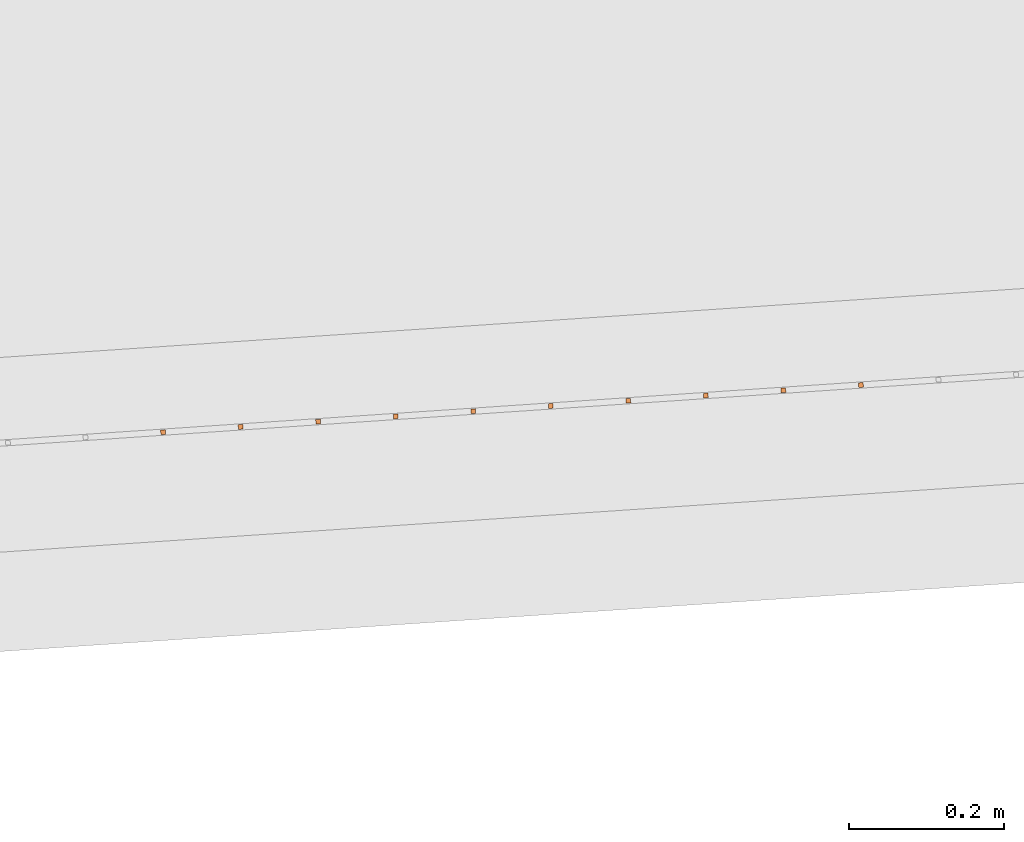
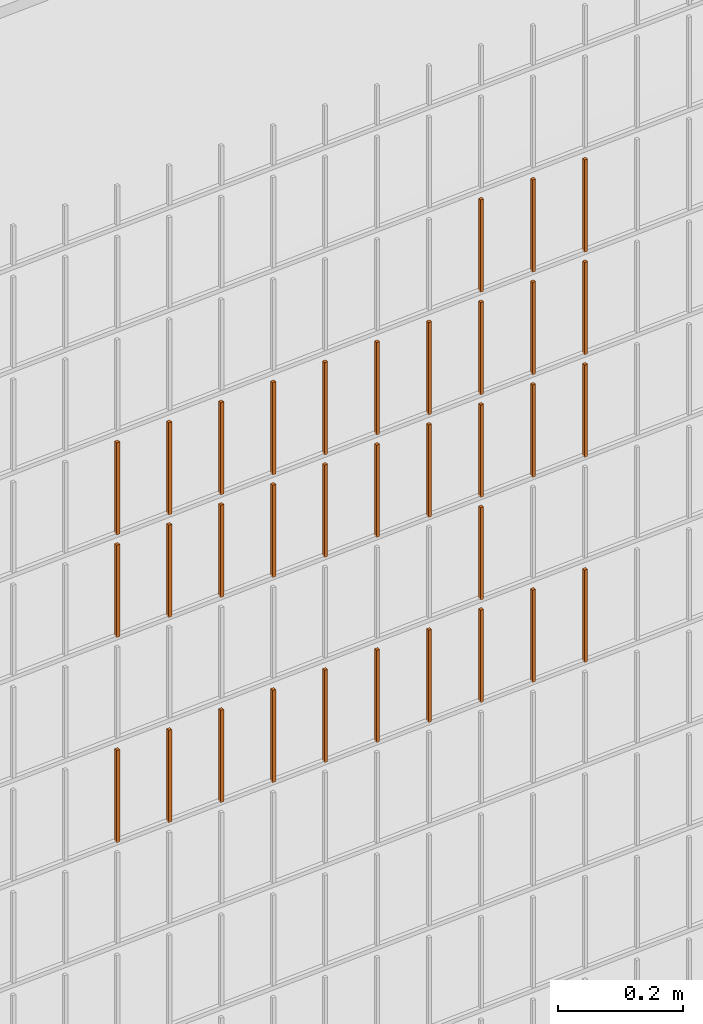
# One storey, part 214 of 1809: 34 proxies, 1 element without a shape of its own.
"""IFC2X3 building model written with IfcOpenShell, lengths in millimetres."""

from ifc_helpers import new_model, entity, si_unit, converted_unit, derived_unit, money_unit, direction, frame, origin_with_axes, place, context, subcontext, project, spatial, faceted_brep, source, transform, mapped, material, type_object, element, aggregate, save


model = new_model("IFC2X3")

# Units and contexts
model_context = context("Model", 3, precision=0.01, world=origin_with_axes(), true_north=direction((0.0, 1.0)))
body_context = subcontext(model_context, "Body", "Model", "MODEL_VIEW")
ifc_project = project(units=[si_unit("LENGTHUNIT", "METRE", prefix="MILLI"), si_unit("AREAUNIT", "SQUARE_METRE"), si_unit("VOLUMEUNIT", "CUBIC_METRE"), converted_unit("PLANEANGLEUNIT", "DEGREE", entity("IfcPlaneAngleMeasure", 0.0174532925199), si_unit("PLANEANGLEUNIT", "RADIAN"), dimensions=[0, 0, 0, 0, 0, 0, 0]), si_unit("SOLIDANGLEUNIT", "STERADIAN"), money_unit("EUR"), converted_unit("TIMEUNIT", "Year", entity("IfcTimeMeasure", 31556926.0), si_unit("TIMEUNIT", "SECOND"), dimensions=[0, 0, 1, 0, 0, 0, 0]), si_unit("MASSUNIT", "GRAM", prefix="KILO"), si_unit("THERMODYNAMICTEMPERATUREUNIT", "DEGREE_CELSIUS"), si_unit("LUMINOUSINTENSITYUNIT", "LUMEN"), si_unit("ENERGYUNIT", "JOULE", prefix="MEGA"), derived_unit("THERMALCONDUCTANCEUNIT", [(si_unit("POWERUNIT", "WATT"), 1), (si_unit("LENGTHUNIT", "METRE"), -1), (si_unit("THERMODYNAMICTEMPERATUREUNIT", "KELVIN"), -1)]), derived_unit("SPECIFICHEATCAPACITYUNIT", [(si_unit("ENERGYUNIT", "JOULE"), 1), (si_unit("MASSUNIT", "GRAM", prefix="KILO"), -1), (si_unit("THERMODYNAMICTEMPERATUREUNIT", "KELVIN"), -1)]), derived_unit("MASSDENSITYUNIT", [(si_unit("MASSUNIT", "GRAM", prefix="KILO"), 1), (si_unit("VOLUMEUNIT", "CUBIC_METRE"), -1)])], contexts=[model_context])

# Site, building, storey
site_placement = place(None, origin_with_axes())
site = spatial("IfcSite", under=ifc_project, at=site_placement, Name="Politse- ja Piirivalveameti ning Päästeameti ühishoone", CompositionType="ELEMENT")
building_placement = place(site_placement, origin_with_axes())
building = spatial("IfcBuilding", under=site, at=building_placement, Name="Politse- ja Piirivalveameti ning Päästeameti ühishoone", CompositionType="ELEMENT")
storey_placement = place(building_placement, origin_with_axes())
storey = spatial("IfcBuildingStorey", under=building, at=storey_placement, Name="Esimene korrus", CompositionType="ELEMENT", Elevation=0.0)

# Proxies
building_element_proxy_type_1 = type_object("IfcBuildingElementProxyType", Name="Railing Type", PredefinedType="NOTDEFINED")
proxy_1_placement = place(storey_placement, frame((89252.001212, -29183.4766571, 203.661247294), z_axis=(0.0, 0.0, 1.0), x_axis=(1.0, 0.0, 0.0)))
proxy_1 = element("IfcBuildingElementProxy", 1, at=proxy_1_placement, inside=storey, type_object=building_element_proxy_type_1, Name="PIIRDEAED")
ifc_material = material(Name="ET-03_Raud")
building_element_proxy_type_2 = type_object("IfcBuildingElementProxyType", Name="IfcBuildingElementProxy", PredefinedType="NOTDEFINED")
shared_shape_1 = source(origin_with_axes(), body_context, "Body", "Brep", [
    faceted_brep([(3.0, 3.0, -0.000752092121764), (-3.0, 3.0, -0.000752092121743), (-3.0, 3.0, 179.99926046), (3.0, 3.0, 179.99926046), (3.0, -3.0, 0.000752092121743), (-3.0, -3.0, 0.000752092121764), (-3.0, -3.0, 180.000764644), (3.0, -3.0, 180.000764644)], [[[0, 1, 2, 3]], [[0, 4, 5, 1]], [[1, 5, 6, 2]], [[3, 2, 6, 7]], [[4, 0, 3, 7]], [[5, 4, 7, 6]]]),
])
proxy_2_placement = place(proxy_1_placement, frame((-60987.7182924, -21417.2649729, 1211.91008536), z_axis=(0.0, 0.0, 1.0), x_axis=(1.0, 0.0, 0.0)))
proxy_2 = element("IfcBuildingElementProxy", 2, at=proxy_2_placement, type_object=building_element_proxy_type_2, material=ifc_material, Name="BALUSTER - 001", context=body_context, shape_type="MappedRepresentation", body=[
    mapped(shared_shape_1, transform((0.0, 0.0, 0.0), x_axis=(-0.0673926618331, 0.997726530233, 0.0), y_axis=(-0.997726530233, -0.0673926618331, 0.0), z_axis=(0.0, 0.0, 1.0))),
])
shared_shape_2 = source(origin_with_axes(), body_context, "Body", "Brep", [
    faceted_brep([(3.0, 3.0, -0.000752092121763), (-3.0, 3.0, -0.000752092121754), (-3.00000000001, 2.99999999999, 179.99926046), (2.99999999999, 2.99999999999, 179.99926046), (3.0, -3.0, 0.000752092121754), (-3.0, -3.0, 0.000752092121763), (-3.00000000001, -3.00000000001, 180.000764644), (2.99999999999, -3.00000000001, 180.000764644)], [[[0, 1, 2, 3]], [[0, 4, 5, 1]], [[1, 5, 6, 2]], [[3, 2, 6, 7]], [[4, 0, 3, 7]], [[5, 4, 7, 6]]]),
])
proxy_3_placement = place(proxy_1_placement, frame((-60389.0823743, -21376.8293758, 1012.06050378), z_axis=(0.0, 0.0, 1.0), x_axis=(1.0, 0.0, 0.0)))
proxy_3 = element("IfcBuildingElementProxy", 3, at=proxy_3_placement, type_object=building_element_proxy_type_2, material=ifc_material, Name="BALUSTER - 001", context=body_context, shape_type="MappedRepresentation", body=[
    mapped(shared_shape_2, transform((0.0, 0.0, 0.0), x_axis=(-0.0673926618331, 0.997726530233, 0.0), y_axis=(-0.997726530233, -0.0673926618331, 0.0), z_axis=(0.0, 0.0, 1.0))),
])
shared_shape_3 = source(origin_with_axes(), body_context, "Body", "Brep", [
    faceted_brep([(3.0, 3.0, -0.000752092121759), (-3.0, 3.0, -0.000752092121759), (-3.0, 3.0, 179.99926046), (3.0, 3.0, 179.99926046), (3.0, -3.0, 0.000752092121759), (-3.0, -3.0, 0.000752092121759), (-3.0, -3.0, 180.000764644), (3.0, -3.0, 180.000764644)], [[[0, 1, 2, 3]], [[0, 4, 5, 1]], [[1, 5, 6, 2]], [[3, 2, 6, 7]], [[4, 0, 3, 7]], [[5, 4, 7, 6]]]),
])
proxy_4_placement = place(proxy_1_placement, frame((-61087.4909454, -21424.0042391, 811.885015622), z_axis=(0.0, 0.0, 1.0), x_axis=(1.0, 0.0, 0.0)))
proxy_4 = element("IfcBuildingElementProxy", 4, at=proxy_4_placement, type_object=building_element_proxy_type_2, material=ifc_material, Name="BALUSTER - 001", context=body_context, shape_type="MappedRepresentation", body=[
    mapped(shared_shape_3, transform((0.0, 0.0, 0.0), x_axis=(-0.0673926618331, 0.997726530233, 0.0), y_axis=(-0.997726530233, -0.0673926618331, 0.0), z_axis=(0.0, 0.0, 1.0))),
])
shared_shape_4 = source(origin_with_axes(), body_context, "Body", "Brep", [
    faceted_brep([(3.0, 3.0, -0.000752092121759), (-3.0, 3.0, -0.000752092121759), (-3.0, 3.0, 179.99926046), (3.0, 3.0, 179.99926046), (3.0, -3.0, 0.000752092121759), (-3.0, -3.0, 0.000752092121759), (-3.0, -3.0, 180.000764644), (3.0, -3.0, 180.000764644)], [[[0, 1, 2, 3]], [[0, 4, 5, 1]], [[1, 5, 6, 2]], [[3, 2, 6, 7]], [[4, 0, 3, 7]], [[5, 4, 7, 6]]]),
])
proxy_5_placement = place(proxy_1_placement, frame((-60887.9456394, -21410.5257067, 1211.9351551), z_axis=(0.0, 0.0, 1.0), x_axis=(1.0, 0.0, 0.0)))
proxy_5 = element("IfcBuildingElementProxy", 5, at=proxy_5_placement, type_object=building_element_proxy_type_2, material=ifc_material, Name="BALUSTER - 001", context=body_context, shape_type="MappedRepresentation", body=[
    mapped(shared_shape_4, transform((0.0, 0.0, 0.0), x_axis=(-0.0673926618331, 0.997726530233, 0.0), y_axis=(-0.997726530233, -0.0673926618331, 0.0), z_axis=(0.0, 0.0, 1.0))),
])
shared_shape_5 = source(origin_with_axes(), body_context, "Body", "Brep", [
    faceted_brep([(3.0, 3.0, -0.000752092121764), (-3.0, 3.0, -0.000752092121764), (-3.0, 3.0, 179.99926046), (3.0, 3.0, 179.99926046), (3.0, -3.0, 0.000752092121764), (-3.0, -3.0, 0.000752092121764), (-3.0, -3.0, 180.000764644), (3.0, -3.0, 180.000764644)], [[[0, 1, 2, 3]], [[0, 4, 5, 1]], [[1, 5, 6, 2]], [[3, 2, 6, 7]], [[4, 0, 3, 7]], [[5, 4, 7, 6]]]),
])
proxy_6_placement = place(proxy_1_placement, frame((-60887.9456394, -21410.5257067, 811.935155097), z_axis=(0.0, 0.0, 1.0), x_axis=(1.0, 0.0, 0.0)))
proxy_6 = element("IfcBuildingElementProxy", 6, at=proxy_6_placement, type_object=building_element_proxy_type_2, material=ifc_material, Name="BALUSTER - 001", context=body_context, shape_type="MappedRepresentation", body=[
    mapped(shared_shape_5, transform((0.0, 0.0, 0.0), x_axis=(-0.0673926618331, 0.997726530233, 0.0), y_axis=(-0.997726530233, -0.0673926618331, 0.0), z_axis=(0.0, 0.0, 1.0))),
])
shared_shape_6 = source(origin_with_axes(), body_context, "Body", "Brep", [
    faceted_brep([(3.0, 3.0, -0.000752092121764), (-3.0, 3.0, -0.000752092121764), (-3.0, 3.0, 179.99926046), (3.0, 3.0, 179.99926046), (3.0, -3.0, 0.000752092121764), (-3.0, -3.0, 0.000752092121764), (-3.0, -3.0, 180.000764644), (3.0, -3.0, 180.000764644)], [[[0, 1, 2, 3]], [[0, 4, 5, 1]], [[1, 5, 6, 2]], [[3, 2, 6, 7]], [[4, 0, 3, 7]], [[5, 4, 7, 6]]]),
])
proxy_7_placement = place(proxy_1_placement, frame((-60688.4003334, -21397.0471744, 811.985294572), z_axis=(0.0, 0.0, 1.0), x_axis=(1.0, 0.0, 0.0)))
proxy_7 = element("IfcBuildingElementProxy", 7, at=proxy_7_placement, type_object=building_element_proxy_type_2, material=ifc_material, Name="BALUSTER - 001", context=body_context, shape_type="MappedRepresentation", body=[
    mapped(shared_shape_6, transform((0.0, 0.0, 0.0), x_axis=(-0.0673926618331, 0.997726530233, 0.0), y_axis=(-0.997726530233, -0.0673926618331, 0.0), z_axis=(0.0, 0.0, 1.0))),
])
shared_shape_7 = source(origin_with_axes(), body_context, "Body", "Brep", [
    faceted_brep([(3.0, 3.0, -0.000752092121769), (-3.0, 3.0, -0.000752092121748), (-3.0, 3.0, 179.99926046), (3.0, 3.0, 179.99926046), (3.0, -3.0, 0.000752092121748), (-3.0, -3.0, 0.000752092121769), (-3.0, -3.0, 180.000764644), (3.0, -3.0, 180.000764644)], [[[0, 1, 2, 3]], [[0, 4, 5, 1]], [[1, 5, 6, 2]], [[3, 2, 6, 7]], [[4, 0, 3, 7]], [[5, 4, 7, 6]]]),
])
proxy_8_placement = place(proxy_1_placement, frame((-60389.0823743, -21376.8293758, 1212.06050378), z_axis=(0.0, 0.0, 1.0), x_axis=(1.0, 0.0, 0.0)))
proxy_8 = element("IfcBuildingElementProxy", 8, at=proxy_8_placement, type_object=building_element_proxy_type_2, material=ifc_material, Name="BALUSTER - 001", context=body_context, shape_type="MappedRepresentation", body=[
    mapped(shared_shape_7, transform((0.0, 0.0, 0.0), x_axis=(-0.0673926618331, 0.997726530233, 0.0), y_axis=(-0.997726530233, -0.0673926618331, 0.0), z_axis=(0.0, 0.0, 1.0))),
])
shared_shape_8 = source(origin_with_axes(), body_context, "Body", "Brep", [
    faceted_brep([(3.0, 3.0, -0.000752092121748), (-3.0, 3.0, -0.00075209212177), (-3.0, 3.0, 179.99926046), (3.0, 3.0, 179.99926046), (3.0, -3.0, 0.00075209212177), (-3.0, -3.0, 0.000752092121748), (-3.0, -3.0, 180.000764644), (3.0, -3.0, 180.000764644)], [[[0, 1, 2, 3]], [[0, 4, 5, 1]], [[1, 5, 6, 2]], [[3, 2, 6, 7]], [[4, 0, 3, 7]], [[5, 4, 7, 6]]]),
])
proxy_9_placement = place(proxy_1_placement, frame((-60588.6276803, -21390.3079082, 812.010364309), z_axis=(0.0, 0.0, 1.0), x_axis=(1.0, 0.0, 0.0)))
proxy_9 = element("IfcBuildingElementProxy", 9, at=proxy_9_placement, type_object=building_element_proxy_type_2, material=ifc_material, Name="BALUSTER - 001", context=body_context, shape_type="MappedRepresentation", body=[
    mapped(shared_shape_8, transform((0.0, 0.0, 0.0), x_axis=(-0.0673926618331, 0.997726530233, 0.0), y_axis=(-0.997726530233, -0.0673926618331, 0.0), z_axis=(0.0, 0.0, 1.0))),
])
shared_shape_9 = source(origin_with_axes(), body_context, "Body", "Brep", [
    faceted_brep([(3.0, 3.0, -0.000752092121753), (-3.0, 3.0, -0.000752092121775), (-3.0, 3.0, 179.99926046), (3.0, 3.0, 179.99926046), (3.0, -3.0, 0.000752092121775), (-3.0, -3.0, 0.000752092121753), (-3.0, -3.0, 180.000764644), (3.0, -3.0, 180.000764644)], [[[0, 1, 2, 3]], [[0, 4, 5, 1]], [[1, 5, 6, 2]], [[3, 2, 6, 7]], [[4, 0, 3, 7]], [[5, 4, 7, 6]]]),
])
proxy_10_placement = place(proxy_1_placement, frame((-60189.5370682, -21363.3508434, 1212.11064326), z_axis=(0.0, 0.0, 1.0), x_axis=(1.0, 0.0, 0.0)))
proxy_10 = element("IfcBuildingElementProxy", 10, at=proxy_10_placement, type_object=building_element_proxy_type_2, material=ifc_material, Name="BALUSTER - 001", context=body_context, shape_type="MappedRepresentation", body=[
    mapped(shared_shape_9, transform((0.0, 0.0, 0.0), x_axis=(-0.0673926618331, 0.997726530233, 0.0), y_axis=(-0.997726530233, -0.0673926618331, 0.0), z_axis=(0.0, 0.0, 1.0))),
])
proxy_11_placement = place(proxy_1_placement, frame((-60788.1729864, -21403.7864405, 1211.96022483), z_axis=(0.0, 0.0, 1.0), x_axis=(1.0, 0.0, 0.0)))
proxy_11 = element("IfcBuildingElementProxy", 11, at=proxy_11_placement, type_object=building_element_proxy_type_2, material=ifc_material, Name="BALUSTER - 001", context=body_context, shape_type="MappedRepresentation", body=[
    mapped(shared_shape_9, transform((0.0, 0.0, 0.0), x_axis=(-0.0673926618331, 0.997726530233, 0.0), y_axis=(-0.997726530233, -0.0673926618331, 0.0), z_axis=(0.0, 0.0, 1.0))),
])
shared_shape_10 = source(origin_with_axes(), body_context, "Body", "Brep", [
    faceted_brep([(3.0, 3.0, -0.000752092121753), (-3.0, 3.0, -0.000752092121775), (-3.0, 3.0, 179.99926046), (3.0, 3.0, 179.99926046), (3.0, -3.0, 0.000752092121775), (-3.0, -3.0, 0.000752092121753), (-3.0, -3.0, 180.000764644), (3.0, -3.0, 180.000764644)], [[[0, 1, 2, 3]], [[0, 4, 5, 1]], [[1, 5, 6, 2]], [[3, 2, 6, 7]], [[4, 0, 3, 7]], [[5, 4, 7, 6]]]),
])
proxy_12_placement = place(proxy_1_placement, frame((-60189.5370682, -21363.3508434, 1412.11064326), z_axis=(0.0, 0.0, 1.0), x_axis=(1.0, 0.0, 0.0)))
proxy_12 = element("IfcBuildingElementProxy", 12, at=proxy_12_placement, type_object=building_element_proxy_type_2, material=ifc_material, Name="BALUSTER - 001", context=body_context, shape_type="MappedRepresentation", body=[
    mapped(shared_shape_10, transform((0.0, 0.0, 0.0), x_axis=(-0.0673926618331, 0.997726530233, 0.0), y_axis=(-0.997726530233, -0.0673926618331, 0.0), z_axis=(0.0, 0.0, 1.0))),
])
proxy_13_placement = place(proxy_1_placement, frame((-60788.1729864, -21403.7864405, 1411.96022483), z_axis=(0.0, 0.0, 1.0), x_axis=(1.0, 0.0, 0.0)))
proxy_13 = element("IfcBuildingElementProxy", 13, at=proxy_13_placement, type_object=building_element_proxy_type_2, material=ifc_material, Name="BALUSTER - 001", context=body_context, shape_type="MappedRepresentation", body=[
    mapped(shared_shape_10, transform((0.0, 0.0, 0.0), x_axis=(-0.0673926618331, 0.997726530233, 0.0), y_axis=(-0.997726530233, -0.0673926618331, 0.0), z_axis=(0.0, 0.0, 1.0))),
])
proxy_14_placement = place(proxy_1_placement, frame((-60189.5370682, -21363.3508434, 1612.11064326), z_axis=(0.0, 0.0, 1.0), x_axis=(1.0, 0.0, 0.0)))
proxy_14 = element("IfcBuildingElementProxy", 14, at=proxy_14_placement, type_object=building_element_proxy_type_2, material=ifc_material, Name="BALUSTER - 001", context=body_context, shape_type="MappedRepresentation", body=[
    mapped(shared_shape_10, transform((0.0, 0.0, 0.0), x_axis=(-0.0673926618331, 0.997726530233, 0.0), y_axis=(-0.997726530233, -0.0673926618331, 0.0), z_axis=(0.0, 0.0, 1.0))),
])
shared_shape_11 = source(origin_with_axes(), body_context, "Body", "Brep", [
    faceted_brep([(3.0, 3.0, -0.000752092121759), (-3.0, 3.0, -0.000752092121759), (-3.0, 3.0, 179.99926046), (3.0, 3.0, 179.99926046), (3.0, -3.0, 0.000752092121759), (-3.0, -3.0, 0.000752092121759), (-3.0, -3.0, 180.000764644), (3.0, -3.0, 180.000764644)], [[[0, 1, 2, 3]], [[0, 4, 5, 1]], [[1, 5, 6, 2]], [[3, 2, 6, 7]], [[4, 0, 3, 7]], [[5, 4, 7, 6]]]),
])
proxy_15_placement = place(proxy_1_placement, frame((-60887.9456394, -21410.5257067, 1411.9351551), z_axis=(0.0, 0.0, 1.0), x_axis=(1.0, 0.0, 0.0)))
proxy_15 = element("IfcBuildingElementProxy", 15, at=proxy_15_placement, type_object=building_element_proxy_type_2, material=ifc_material, Name="BALUSTER - 001", context=body_context, shape_type="MappedRepresentation", body=[
    mapped(shared_shape_11, transform((0.0, 0.0, 0.0), x_axis=(-0.0673926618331, 0.997726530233, 0.0), y_axis=(-0.997726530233, -0.0673926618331, 0.0), z_axis=(0.0, 0.0, 1.0))),
])
shared_shape_12 = source(origin_with_axes(), body_context, "Body", "Brep", [
    faceted_brep([(3.0, 3.0, -0.000752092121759), (-3.0, 3.0, -0.000752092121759), (-3.0, 3.0, 179.99926046), (3.0, 3.0, 179.99926046), (3.0, -3.0, 0.000752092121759), (-3.0, -3.0, 0.000752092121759), (-3.0, -3.0, 180.000764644), (3.0, -3.0, 180.000764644)], [[[0, 1, 2, 3]], [[0, 4, 5, 1]], [[1, 5, 6, 2]], [[3, 2, 6, 7]], [[4, 0, 3, 7]], [[5, 4, 7, 6]]]),
])
proxy_16_placement = place(proxy_1_placement, frame((-60289.3097213, -21370.0901096, 812.085573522), z_axis=(0.0, 0.0, 1.0), x_axis=(1.0, 0.0, 0.0)))
proxy_16 = element("IfcBuildingElementProxy", 16, at=proxy_16_placement, type_object=building_element_proxy_type_2, material=ifc_material, Name="BALUSTER - 001", context=body_context, shape_type="MappedRepresentation", body=[
    mapped(shared_shape_12, transform((0.0, 0.0, 0.0), x_axis=(-0.0673926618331, 0.997726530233, 0.0), y_axis=(-0.997726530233, -0.0673926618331, 0.0), z_axis=(0.0, 0.0, 1.0))),
])
shared_shape_13 = source(origin_with_axes(), body_context, "Body", "Brep", [
    faceted_brep([(3.0, 3.0, -0.000752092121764), (-3.0, 3.0, -0.000752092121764), (-3.0, 3.0, 179.99926046), (3.0, 3.0, 179.99926046), (3.0, -3.0, 0.000752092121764), (-3.0, -3.0, 0.000752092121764), (-3.0, -3.0, 180.000764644), (3.0, -3.0, 180.000764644)], [[[0, 1, 2, 3]], [[0, 4, 5, 1]], [[1, 5, 6, 2]], [[3, 2, 6, 7]], [[4, 0, 3, 7]], [[5, 4, 7, 6]]]),
])
proxy_17_placement = place(proxy_1_placement, frame((-60688.4003334, -21397.0471744, 1211.98529457), z_axis=(0.0, 0.0, 1.0), x_axis=(1.0, 0.0, 0.0)))
proxy_17 = element("IfcBuildingElementProxy", 17, at=proxy_17_placement, type_object=building_element_proxy_type_2, material=ifc_material, Name="BALUSTER - 001", context=body_context, shape_type="MappedRepresentation", body=[
    mapped(shared_shape_13, transform((0.0, 0.0, 0.0), x_axis=(-0.0673926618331, 0.997726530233, 0.0), y_axis=(-0.997726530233, -0.0673926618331, 0.0), z_axis=(0.0, 0.0, 1.0))),
])
shared_shape_14 = source(origin_with_axes(), body_context, "Body", "Brep", [
    faceted_brep([(3.0, 3.0, -0.000752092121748), (-3.0, 3.0, -0.00075209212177), (-3.0, 3.0, 179.99926046), (3.0, 3.0, 179.99926046), (3.0, -3.0, 0.00075209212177), (-3.0, -3.0, 0.000752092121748), (-3.0, -3.0, 180.000764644), (3.0, -3.0, 180.000764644)], [[[0, 1, 2, 3]], [[0, 4, 5, 1]], [[1, 5, 6, 2]], [[3, 2, 6, 7]], [[4, 0, 3, 7]], [[5, 4, 7, 6]]]),
])
proxy_18_placement = place(proxy_1_placement, frame((-60488.8550273, -21383.568642, 812.035434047), z_axis=(0.0, 0.0, 1.0), x_axis=(1.0, 0.0, 0.0)))
proxy_18 = element("IfcBuildingElementProxy", 18, at=proxy_18_placement, type_object=building_element_proxy_type_2, material=ifc_material, Name="BALUSTER - 001", context=body_context, shape_type="MappedRepresentation", body=[
    mapped(shared_shape_14, transform((0.0, 0.0, 0.0), x_axis=(-0.0673926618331, 0.997726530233, 0.0), y_axis=(-0.997726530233, -0.0673926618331, 0.0), z_axis=(0.0, 0.0, 1.0))),
])
proxy_19_placement = place(proxy_1_placement, frame((-61087.4909454, -21424.0042391, 1211.88501562), z_axis=(0.0, 0.0, 1.0), x_axis=(1.0, 0.0, 0.0)))
proxy_19 = element("IfcBuildingElementProxy", 19, at=proxy_19_placement, type_object=building_element_proxy_type_2, material=ifc_material, Name="BALUSTER - 001", context=body_context, shape_type="MappedRepresentation", body=[
    mapped(shared_shape_14, transform((0.0, 0.0, 0.0), x_axis=(-0.0673926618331, 0.997726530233, 0.0), y_axis=(-0.997726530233, -0.0673926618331, 0.0), z_axis=(0.0, 0.0, 1.0))),
])
shared_shape_15 = source(origin_with_axes(), body_context, "Body", "Brep", [
    faceted_brep([(3.0, 3.0, -0.000752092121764), (-3.0, 3.0, -0.000752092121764), (-3.0, 3.0, 179.99926046), (3.0, 3.0, 179.99926046), (3.0, -3.0, 0.000752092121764), (-3.0, -3.0, 0.000752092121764), (-3.0, -3.0, 180.000764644), (3.0, -3.0, 180.000764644)], [[[0, 1, 2, 3]], [[0, 4, 5, 1]], [[1, 5, 6, 2]], [[3, 2, 6, 7]], [[4, 0, 3, 7]], [[5, 4, 7, 6]]]),
])
proxy_20_placement = place(proxy_1_placement, frame((-60788.1729864, -21403.7864405, 811.960224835), z_axis=(0.0, 0.0, 1.0), x_axis=(1.0, 0.0, 0.0)))
proxy_20 = element("IfcBuildingElementProxy", 20, at=proxy_20_placement, type_object=building_element_proxy_type_2, material=ifc_material, Name="BALUSTER - 001", context=body_context, shape_type="MappedRepresentation", body=[
    mapped(shared_shape_15, transform((0.0, 0.0, 0.0), x_axis=(-0.0673926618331, 0.997726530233, 0.0), y_axis=(-0.997726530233, -0.0673926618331, 0.0), z_axis=(0.0, 0.0, 1.0))),
])
shared_shape_16 = source(origin_with_axes(), body_context, "Body", "Brep", [
    faceted_brep([(3.0, 3.0, -0.000752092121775), (-3.0, 3.0, -0.000752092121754), (-3.0, 3.0, 179.99926046), (3.0, 3.0, 179.99926046), (3.0, -3.0, 0.000752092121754), (-3.0, -3.0, 0.000752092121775), (-3.0, -3.0, 180.000764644), (3.0, -3.0, 180.000764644)], [[[0, 1, 2, 3]], [[0, 4, 5, 1]], [[1, 5, 6, 2]], [[3, 2, 6, 7]], [[4, 0, 3, 7]], [[5, 4, 7, 6]]]),
])
proxy_21_placement = place(proxy_1_placement, frame((-60189.5370682, -21363.3508434, 812.110643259), z_axis=(0.0, 0.0, 1.0), x_axis=(1.0, 0.0, 0.0)))
proxy_21 = element("IfcBuildingElementProxy", 21, at=proxy_21_placement, type_object=building_element_proxy_type_2, material=ifc_material, Name="BALUSTER - 001", context=body_context, shape_type="MappedRepresentation", body=[
    mapped(shared_shape_16, transform((0.0, 0.0, 0.0), x_axis=(-0.0673926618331, 0.997726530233, 0.0), y_axis=(-0.997726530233, -0.0673926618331, 0.0), z_axis=(0.0, 0.0, 1.0))),
])
shared_shape_17 = source(origin_with_axes(), body_context, "Body", "Brep", [
    faceted_brep([(3.0, 3.0, -0.000752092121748), (-3.0, 3.0, -0.00075209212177), (-3.0, 3.0, 179.99926046), (3.0, 3.0, 179.99926046), (3.0, -3.0, 0.00075209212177), (-3.0, -3.0, 0.000752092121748), (-3.0, -3.0, 180.000764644), (3.0, -3.0, 180.000764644)], [[[0, 1, 2, 3]], [[0, 4, 5, 1]], [[1, 5, 6, 2]], [[3, 2, 6, 7]], [[4, 0, 3, 7]], [[5, 4, 7, 6]]]),
])
proxy_22_placement = place(proxy_1_placement, frame((-60389.0823743, -21376.8293758, 812.060503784), z_axis=(0.0, 0.0, 1.0), x_axis=(1.0, 0.0, 0.0)))
proxy_22 = element("IfcBuildingElementProxy", 22, at=proxy_22_placement, type_object=building_element_proxy_type_2, material=ifc_material, Name="BALUSTER - 001", context=body_context, shape_type="MappedRepresentation", body=[
    mapped(shared_shape_17, transform((0.0, 0.0, 0.0), x_axis=(-0.0673926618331, 0.997726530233, 0.0), y_axis=(-0.997726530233, -0.0673926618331, 0.0), z_axis=(0.0, 0.0, 1.0))),
])
proxy_23_placement = place(proxy_1_placement, frame((-60987.7182924, -21417.2649729, 811.91008536), z_axis=(0.0, 0.0, 1.0), x_axis=(1.0, 0.0, 0.0)))
proxy_23 = element("IfcBuildingElementProxy", 23, at=proxy_23_placement, type_object=building_element_proxy_type_2, material=ifc_material, Name="BALUSTER - 001", context=body_context, shape_type="MappedRepresentation", body=[
    mapped(shared_shape_17, transform((0.0, 0.0, 0.0), x_axis=(-0.0673926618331, 0.997726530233, 0.0), y_axis=(-0.997726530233, -0.0673926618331, 0.0), z_axis=(0.0, 0.0, 1.0))),
])
shared_shape_18 = source(origin_with_axes(), body_context, "Body", "Brep", [
    faceted_brep([(3.0, 3.0, -0.000752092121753), (-3.0, 3.0, -0.000752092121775), (-3.0, 3.0, 179.99926046), (3.0, 3.0, 179.99926046), (3.0, -3.0, 0.000752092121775), (-3.0, -3.0, 0.000752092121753), (-3.0, -3.0, 180.000764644), (3.0, -3.0, 180.000764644)], [[[0, 1, 2, 3]], [[0, 4, 5, 1]], [[1, 5, 6, 2]], [[3, 2, 6, 7]], [[4, 0, 3, 7]], [[5, 4, 7, 6]]]),
])
proxy_24_placement = place(proxy_1_placement, frame((-60488.8550273, -21383.568642, 1212.03543405), z_axis=(0.0, 0.0, 1.0), x_axis=(1.0, 0.0, 0.0)))
proxy_24 = element("IfcBuildingElementProxy", 24, at=proxy_24_placement, type_object=building_element_proxy_type_2, material=ifc_material, Name="BALUSTER - 001", context=body_context, shape_type="MappedRepresentation", body=[
    mapped(shared_shape_18, transform((0.0, 0.0, 0.0), x_axis=(-0.0673926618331, 0.997726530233, 0.0), y_axis=(-0.997726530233, -0.0673926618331, 0.0), z_axis=(0.0, 0.0, 1.0))),
])
shared_shape_19 = source(origin_with_axes(), body_context, "Body", "Brep", [
    faceted_brep([(3.0, 3.0, -0.000752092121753), (-3.0, 3.0, -0.000752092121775), (-3.0, 3.0, 179.99926046), (3.0, 3.0, 179.99926046), (3.0, -3.0, 0.000752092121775), (-3.0, -3.0, 0.000752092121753), (-3.0, -3.0, 180.000764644), (3.0, -3.0, 180.000764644)], [[[0, 1, 2, 3]], [[0, 4, 5, 1]], [[1, 5, 6, 2]], [[3, 2, 6, 7]], [[4, 0, 3, 7]], [[5, 4, 7, 6]]]),
])
proxy_25_placement = place(proxy_1_placement, frame((-60289.3097213, -21370.0901096, 1212.08557352), z_axis=(0.0, 0.0, 1.0), x_axis=(1.0, 0.0, 0.0)))
proxy_25 = element("IfcBuildingElementProxy", 25, at=proxy_25_placement, type_object=building_element_proxy_type_2, material=ifc_material, Name="BALUSTER - 001", context=body_context, shape_type="MappedRepresentation", body=[
    mapped(shared_shape_19, transform((0.0, 0.0, 0.0), x_axis=(-0.0673926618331, 0.997726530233, 0.0), y_axis=(-0.997726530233, -0.0673926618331, 0.0), z_axis=(0.0, 0.0, 1.0))),
])
shared_shape_20 = source(origin_with_axes(), body_context, "Body", "Brep", [
    faceted_brep([(3.0, 3.0, -0.000752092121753), (-3.0, 3.0, -0.000752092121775), (-3.0, 3.0, 179.99926046), (3.0, 3.0, 179.99926046), (3.0, -3.0, 0.000752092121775), (-3.0, -3.0, 0.000752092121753), (-3.0, -3.0, 180.000764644), (3.0, -3.0, 180.000764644)], [[[0, 1, 2, 3]], [[0, 4, 5, 1]], [[1, 5, 6, 2]], [[3, 2, 6, 7]], [[4, 0, 3, 7]], [[5, 4, 7, 6]]]),
])
proxy_26_placement = place(proxy_1_placement, frame((-60588.6276803, -21390.3079082, 1212.01036431), z_axis=(0.0, 0.0, 1.0), x_axis=(1.0, 0.0, 0.0)))
proxy_26 = element("IfcBuildingElementProxy", 26, at=proxy_26_placement, type_object=building_element_proxy_type_2, material=ifc_material, Name="BALUSTER - 001", context=body_context, shape_type="MappedRepresentation", body=[
    mapped(shared_shape_20, transform((0.0, 0.0, 0.0), x_axis=(-0.0673926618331, 0.997726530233, 0.0), y_axis=(-0.997726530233, -0.0673926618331, 0.0), z_axis=(0.0, 0.0, 1.0))),
])
shared_shape_21 = source(origin_with_axes(), body_context, "Body", "Brep", [
    faceted_brep([(3.0, 3.0, -0.000752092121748), (-3.0, 3.0, -0.00075209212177), (-3.0, 3.0, 179.99926046), (3.0, 3.0, 179.99926046), (3.0, -3.0, 0.00075209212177), (-3.0, -3.0, 0.000752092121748), (-3.0, -3.0, 180.000764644), (3.0, -3.0, 180.000764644)], [[[0, 1, 2, 3]], [[0, 4, 5, 1]], [[1, 5, 6, 2]], [[3, 2, 6, 7]], [[4, 0, 3, 7]], [[5, 4, 7, 6]]]),
])
proxy_27_placement = place(proxy_1_placement, frame((-61087.4909454, -21424.0042391, 1411.88501562), z_axis=(0.0, 0.0, 1.0), x_axis=(1.0, 0.0, 0.0)))
proxy_27 = element("IfcBuildingElementProxy", 27, at=proxy_27_placement, type_object=building_element_proxy_type_2, material=ifc_material, Name="BALUSTER - 001", context=body_context, shape_type="MappedRepresentation", body=[
    mapped(shared_shape_21, transform((0.0, 0.0, 0.0), x_axis=(-0.0673926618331, 0.997726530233, 0.0), y_axis=(-0.997726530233, -0.0673926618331, 0.0), z_axis=(0.0, 0.0, 1.0))),
])
shared_shape_22 = source(origin_with_axes(), body_context, "Body", "Brep", [
    faceted_brep([(3.0, 3.0, -0.000752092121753), (-3.0, 3.0, -0.000752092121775), (-3.0, 3.0, 179.99926046), (3.0, 3.0, 179.99926046), (3.0, -3.0, 0.000752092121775), (-3.0, -3.0, 0.000752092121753), (-3.0, -3.0, 180.000764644), (3.0, -3.0, 180.000764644)], [[[0, 1, 2, 3]], [[0, 4, 5, 1]], [[1, 5, 6, 2]], [[3, 2, 6, 7]], [[4, 0, 3, 7]], [[5, 4, 7, 6]]]),
])
proxy_28_placement = place(proxy_1_placement, frame((-60289.3097213, -21370.0901096, 1412.08557352), z_axis=(0.0, 0.0, 1.0), x_axis=(1.0, 0.0, 0.0)))
proxy_28 = element("IfcBuildingElementProxy", 28, at=proxy_28_placement, type_object=building_element_proxy_type_2, material=ifc_material, Name="BALUSTER - 001", context=body_context, shape_type="MappedRepresentation", body=[
    mapped(shared_shape_22, transform((0.0, 0.0, 0.0), x_axis=(-0.0673926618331, 0.997726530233, 0.0), y_axis=(-0.997726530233, -0.0673926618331, 0.0), z_axis=(0.0, 0.0, 1.0))),
])
proxy_29_placement = place(proxy_1_placement, frame((-60289.3097213, -21370.0901096, 1612.08557352), z_axis=(0.0, 0.0, 1.0), x_axis=(1.0, 0.0, 0.0)))
proxy_29 = element("IfcBuildingElementProxy", 29, at=proxy_29_placement, type_object=building_element_proxy_type_2, material=ifc_material, Name="BALUSTER - 001", context=body_context, shape_type="MappedRepresentation", body=[
    mapped(shared_shape_22, transform((0.0, 0.0, 0.0), x_axis=(-0.0673926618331, 0.997726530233, 0.0), y_axis=(-0.997726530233, -0.0673926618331, 0.0), z_axis=(0.0, 0.0, 1.0))),
])
shared_shape_23 = source(origin_with_axes(), body_context, "Body", "Brep", [
    faceted_brep([(3.0, 3.0, -0.000752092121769), (-3.0, 3.0, -0.000752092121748), (-3.0, 3.0, 179.99926046), (3.0, 3.0, 179.99926046), (3.0, -3.0, 0.000752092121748), (-3.0, -3.0, 0.000752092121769), (-3.0, -3.0, 180.000764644), (3.0, -3.0, 180.000764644)], [[[0, 1, 2, 3]], [[0, 4, 5, 1]], [[1, 5, 6, 2]], [[3, 2, 6, 7]], [[4, 0, 3, 7]], [[5, 4, 7, 6]]]),
])
proxy_30_placement = place(proxy_1_placement, frame((-60389.0823743, -21376.8293758, 1412.06050378), z_axis=(0.0, 0.0, 1.0), x_axis=(1.0, 0.0, 0.0)))
proxy_30 = element("IfcBuildingElementProxy", 30, at=proxy_30_placement, type_object=building_element_proxy_type_2, material=ifc_material, Name="BALUSTER - 001", context=body_context, shape_type="MappedRepresentation", body=[
    mapped(shared_shape_23, transform((0.0, 0.0, 0.0), x_axis=(-0.0673926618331, 0.997726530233, 0.0), y_axis=(-0.997726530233, -0.0673926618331, 0.0), z_axis=(0.0, 0.0, 1.0))),
])
proxy_31_placement = place(proxy_1_placement, frame((-60389.0823743, -21376.8293758, 1612.06050378), z_axis=(0.0, 0.0, 1.0), x_axis=(1.0, 0.0, 0.0)))
proxy_31 = element("IfcBuildingElementProxy", 31, at=proxy_31_placement, type_object=building_element_proxy_type_2, material=ifc_material, Name="BALUSTER - 001", context=body_context, shape_type="MappedRepresentation", body=[
    mapped(shared_shape_23, transform((0.0, 0.0, 0.0), x_axis=(-0.0673926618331, 0.997726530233, 0.0), y_axis=(-0.997726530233, -0.0673926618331, 0.0), z_axis=(0.0, 0.0, 1.0))),
])
shared_shape_24 = source(origin_with_axes(), body_context, "Body", "Brep", [
    faceted_brep([(3.0, 3.0, -0.000752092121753), (-3.0, 3.0, -0.000752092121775), (-3.0, 3.0, 179.99926046), (3.0, 3.0, 179.99926046), (3.0, -3.0, 0.000752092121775), (-3.0, -3.0, 0.000752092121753), (-3.0, -3.0, 180.000764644), (3.0, -3.0, 180.000764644)], [[[0, 1, 2, 3]], [[0, 4, 5, 1]], [[1, 5, 6, 2]], [[3, 2, 6, 7]], [[4, 0, 3, 7]], [[5, 4, 7, 6]]]),
])
proxy_32_placement = place(proxy_1_placement, frame((-60488.8550273, -21383.568642, 1412.03543405), z_axis=(0.0, 0.0, 1.0), x_axis=(1.0, 0.0, 0.0)))
proxy_32 = element("IfcBuildingElementProxy", 32, at=proxy_32_placement, type_object=building_element_proxy_type_2, material=ifc_material, Name="BALUSTER - 001", context=body_context, shape_type="MappedRepresentation", body=[
    mapped(shared_shape_24, transform((0.0, 0.0, 0.0), x_axis=(-0.0673926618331, 0.997726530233, 0.0), y_axis=(-0.997726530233, -0.0673926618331, 0.0), z_axis=(0.0, 0.0, 1.0))),
])
shared_shape_25 = source(origin_with_axes(), body_context, "Body", "Brep", [
    faceted_brep([(3.0, 3.0, -0.000752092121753), (-3.0, 3.0, -0.000752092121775), (-3.0, 3.0, 179.99926046), (3.0, 3.0, 179.99926046), (3.0, -3.0, 0.000752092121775), (-3.0, -3.0, 0.000752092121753), (-3.0, -3.0, 180.000764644), (3.0, -3.0, 180.000764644)], [[[0, 1, 2, 3]], [[0, 4, 5, 1]], [[1, 5, 6, 2]], [[3, 2, 6, 7]], [[4, 0, 3, 7]], [[5, 4, 7, 6]]]),
])
proxy_33_placement = place(proxy_1_placement, frame((-60588.6276803, -21390.3079082, 1412.01036431), z_axis=(0.0, 0.0, 1.0), x_axis=(1.0, 0.0, 0.0)))
proxy_33 = element("IfcBuildingElementProxy", 33, at=proxy_33_placement, type_object=building_element_proxy_type_2, material=ifc_material, Name="BALUSTER - 001", context=body_context, shape_type="MappedRepresentation", body=[
    mapped(shared_shape_25, transform((0.0, 0.0, 0.0), x_axis=(-0.0673926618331, 0.997726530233, 0.0), y_axis=(-0.997726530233, -0.0673926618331, 0.0), z_axis=(0.0, 0.0, 1.0))),
])
shared_shape_26 = source(origin_with_axes(), body_context, "Body", "Brep", [
    faceted_brep([(3.0, 3.0, -0.000752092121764), (-3.0, 3.0, -0.000752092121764), (-3.0, 3.0, 179.99926046), (3.0, 3.0, 179.99926046), (3.0, -3.0, 0.000752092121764), (-3.0, -3.0, 0.000752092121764), (-3.0, -3.0, 180.000764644), (3.0, -3.0, 180.000764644)], [[[0, 1, 2, 3]], [[0, 4, 5, 1]], [[1, 5, 6, 2]], [[3, 2, 6, 7]], [[4, 0, 3, 7]], [[5, 4, 7, 6]]]),
])
proxy_34_placement = place(proxy_1_placement, frame((-60688.4003334, -21397.0471744, 1411.98529457), z_axis=(0.0, 0.0, 1.0), x_axis=(1.0, 0.0, 0.0)))
proxy_34 = element("IfcBuildingElementProxy", 34, at=proxy_34_placement, type_object=building_element_proxy_type_2, material=ifc_material, Name="BALUSTER - 001", context=body_context, shape_type="MappedRepresentation", body=[
    mapped(shared_shape_26, transform((0.0, 0.0, 0.0), x_axis=(-0.0673926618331, 0.997726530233, 0.0), y_axis=(-0.997726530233, -0.0673926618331, 0.0), z_axis=(0.0, 0.0, 1.0))),
])
shared_shape_27 = source(origin_with_axes(), body_context, "Body", "Brep", [
    faceted_brep([(3.0, 3.0, -0.000752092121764), (-3.0, 3.0, -0.000752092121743), (-3.0, 3.0, 179.99926046), (3.0, 3.0, 179.99926046), (3.0, -3.0, 0.000752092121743), (-3.0, -3.0, 0.000752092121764), (-3.0, -3.0, 180.000764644), (3.0, -3.0, 180.000764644)], [[[0, 1, 2, 3]], [[0, 4, 5, 1]], [[1, 5, 6, 2]], [[3, 2, 6, 7]], [[4, 0, 3, 7]], [[5, 4, 7, 6]]]),
])
proxy_35_placement = place(proxy_1_placement, frame((-60987.7182924, -21417.2649729, 1411.91008536), z_axis=(0.0, 0.0, 1.0), x_axis=(1.0, 0.0, 0.0)))
proxy_35 = element("IfcBuildingElementProxy", 35, at=proxy_35_placement, type_object=building_element_proxy_type_2, material=ifc_material, Name="BALUSTER - 001", context=body_context, shape_type="MappedRepresentation", body=[
    mapped(shared_shape_27, transform((0.0, 0.0, 0.0), x_axis=(-0.0673926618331, 0.997726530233, 0.0), y_axis=(-0.997726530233, -0.0673926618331, 0.0), z_axis=(0.0, 0.0, 1.0))),
])
aggregate(proxy_1, [proxy_21, proxy_16, proxy_22, proxy_18, proxy_9, proxy_7, proxy_20, proxy_6, proxy_23, proxy_4, proxy_3, proxy_10, proxy_25, proxy_8, proxy_24, proxy_26, proxy_17, proxy_11, proxy_5, proxy_2, proxy_19, proxy_12, proxy_28, proxy_30, proxy_32, proxy_33, proxy_34, proxy_13, proxy_15, proxy_35, proxy_27, proxy_14, proxy_29, proxy_31])

save(model, "model.ifc")
